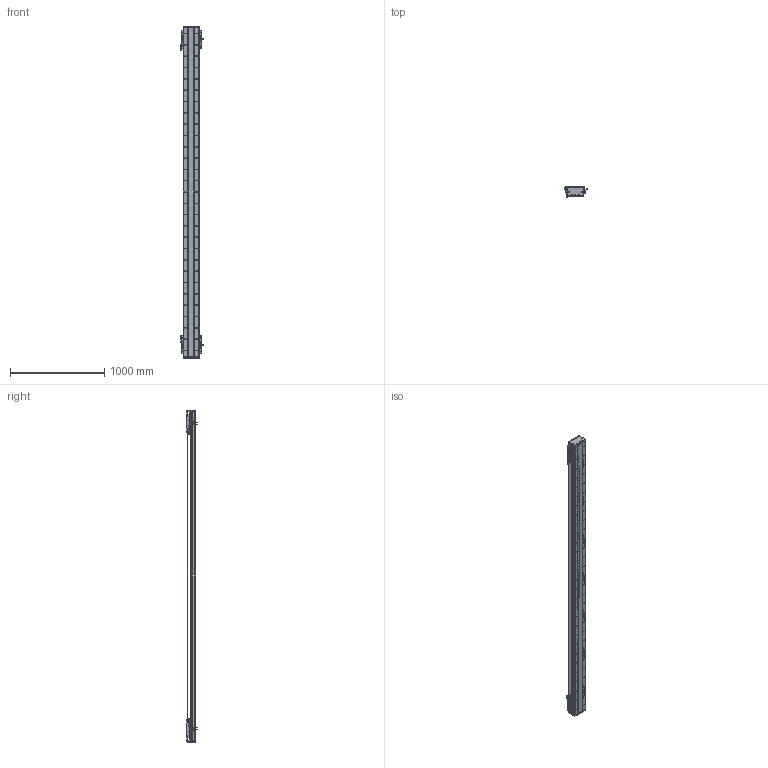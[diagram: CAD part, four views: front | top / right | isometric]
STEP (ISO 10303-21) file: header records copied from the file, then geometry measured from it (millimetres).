
FILE_DESCRIPTION (( 'STEP AP203' ), '1' );
FILE_NAME ('DA-C165-2-C2-T3020-C010-0.2 直线电机.STEP', '2023-05-11T08:33:11', ( '微软用户' ), ( '微软中国' ), 'SwSTEP 2.0', 'SolidWorks 2019', '' );
FILE_SCHEMA (( 'CONFIG_CONTROL_DESIGN' ));
Length unit declared in the file: millimetre
Products named in the file (22): 复件 六角薄螺母 M3^DA-C165-C2-T-C010-0.2-N 直线电机_GB_FASTENER_NUT_STNAB M3-C; 复件 DA165-GDYK-00 钢带压块^复件 CU165钢带组件_DA-C165-C2-T-C010-0.2-N 直线电机; DA-C165-2-C2-T3020-C010-0.2 眻盄萇儂; 复件 66338-1000-006-00 光电感应块^DA-C165-C2-T-C010-0.2-N 直线电机; IU-CU165-L 菁釱絳寢; 葩璃 PM-T45^DA-C165-C2-T-C010-0.2-N 眻盄萇儂; 复件 DA165-GD-DG-H-00 端盖^复件 CU165钢带组件_DA-C165-C2-T-C010-0.2-N 直线电机; 复件 DKW-HXJ-JY-00 缓冲橡胶^DA-C165-C2-T-C010-0.2-N 直线电机; 复件 XD-U-02L 磁栅尺^DA-C165-C2-T-C010-0.2-N 直线电机_T; 复件 CKM02-W075-C1C2-TP-3.0 一体电机-C2^DA-C165-C2-T-C010-0.2-N 直线电机; 葩璃 CKM01-W075-TRL^DA-C165-C2-T-C010-0.2-N 眻盄萇儂; 葩璃 DA95-GT-T-00^IU-CU165-L 菁釱絳寢_T; 复件 DA126-GYP-ZJ-00 中间光电感应片^DA-C165-C2-T-C010-0.2-N 直线电机; 复件 DA95-HXJ-00 缓冲橡胶^DA-C165-C2-T-C010-0.2-N 直线电机; 珨极趙賑雄怢啣wf-C2; 复件 CU165钢带组件^DA-C165-C2-T-C010-0.2-N 直线电机; 复件 DMA-010-0.2 读数头^DA-C165-C2-T-C010-0.2-N 直线电机; 葩璃 PM-Y45^DA-C165-C2-T-C010-0.2-N 眻盄萇儂; 复件 DA165-GD-1860-002-00 钢带盖板^复件 CU165钢带组件_DA-C165-C2-T-C010-0.2-N 直线电机; IU-CU165-L-00 菁釱_L3480; 复件 DA165-GDLK-00 钢带拉块^复件 CU165钢带组件_DA-C165-C2-T-C010-0.2-N 直线电机; 复件 DA165-GYP-00 光电感应片^DA-C165-C2-T-C010-0.2-N 直线电机
Assembly tree (43 placements, depth 3):
  DA-C165-2-C2-T3020-C010-0.2 眻盄萇儂
    IU-CU165-L 菁釱絳寢
      IU-CU165-L-00 菁釱_L3480
      葩璃 DA95-GT-T-00^IU-CU165-L 菁釱絳寢_T  x4
    复件 XD-U-02L 磁栅尺^DA-C165-C2-T-C010-0.2-N 直线电机_T
    葩璃 PM-T45^DA-C165-C2-T-C010-0.2-N 眻盄萇儂  x4
    葩璃 CKM01-W075-TRL^DA-C165-C2-T-C010-0.2-N 眻盄萇儂
    复件 CU165钢带组件^DA-C165-C2-T-C010-0.2-N 直线电机
      复件 DA165-GD-DG-H-00 端盖^复件 CU165钢带组件_DA-C165-C2-T-C010-0.2-N 直线电机  x2
      复件 DA165-GDYK-00 钢带压块^复件 CU165钢带组件_DA-C165-C2-T-C010-0.2-N 直线电机  x2
      复件 DA165-GD-1860-002-00 钢带盖板^复件 CU165钢带组件_DA-C165-C2-T-C010-0.2-N 直线电机
      复件 DA165-GDLK-00 钢带拉块^复件 CU165钢带组件_DA-C165-C2-T-C010-0.2-N 直线电机  x2
    复件 DA95-HXJ-00 缓冲橡胶^DA-C165-C2-T-C010-0.2-N 直线电机  x4
    复件 CKM02-W075-C1C2-TP-3.0 一体电机-C2^DA-C165-C2-T-C010-0.2-N 直线电机  x2
    复件 DMA-010-0.2 读数头^DA-C165-C2-T-C010-0.2-N 直线电机  x2
    复件 DA165-GYP-00 光电感应片^DA-C165-C2-T-C010-0.2-N 直线电机  x2
    复件 66338-1000-006-00 光电感应块^DA-C165-C2-T-C010-0.2-N 直线电机
    葩璃 PM-Y45^DA-C165-C2-T-C010-0.2-N 眻盄萇儂
    复件 DA126-GYP-ZJ-00 中间光电感应片^DA-C165-C2-T-C010-0.2-N 直线电机
    复件 DKW-HXJ-JY-00 缓冲橡胶^DA-C165-C2-T-C010-0.2-N 直线电机  x2
    复件 六角薄螺母 M3^DA-C165-C2-T-C010-0.2-N 直线电机_GB_FASTENER_NUT_STNAB M3-C  x6
    珨极趙賑雄怢啣wf-C2  x2
Bounding box: 247.2 x 111.45 x 3520 mm (x, y, z)
Volume: 20467713.4 mm3; surface area: 6071593.9 mm2
Topology: 119 solids, 119 shells, 6095 faces, 17534 edges, 11132 vertices
Faces by surface type: cylinder 3468, plane 1835, cone 704, torus 80, sphere 8
Entity records: 158188 total; most frequent: CARTESIAN_POINT 44261, ORIENTED_EDGE 24012, DIRECTION 22644, EDGE_CURVE 12006, AXIS2_PLACEMENT_3D 8648, VERTEX_POINT 7869, EDGE_LOOP 5423, LINE 5348
